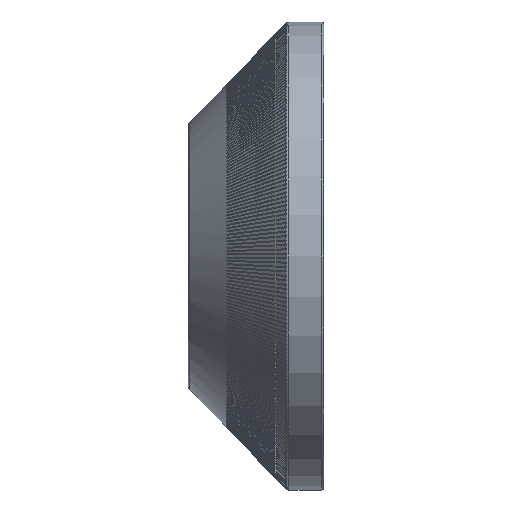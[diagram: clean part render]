
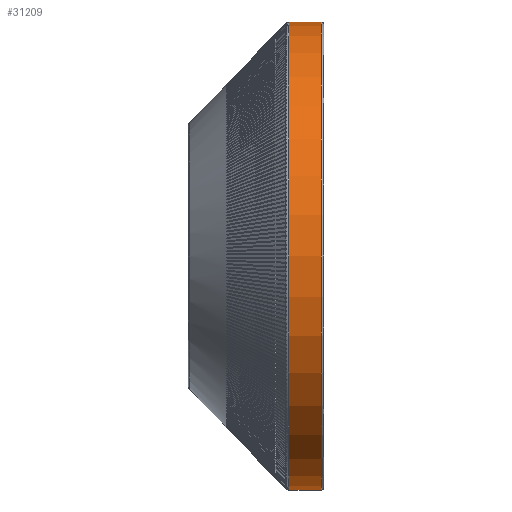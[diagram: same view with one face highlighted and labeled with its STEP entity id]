
A CAD part, left-side view. The second image highlights one B-rep face of the part: STEP entity #31209.
In plain terms, the highlighted cylindrical face has radius 9.5 mm (diameter 19 mm), a full revolution.
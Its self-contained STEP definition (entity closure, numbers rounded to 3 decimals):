
#3806=FACE_OUTER_BOUND('',#5548,.T.);
#5548=EDGE_LOOP('',(#29123,#29124,#29125,#29126));
#5725=CIRCLE('',#31409,9.5);
#7223=CIRCLE('',#33275,9.5);
#10066=LINE('',#129333,#10173);
#10173=VECTOR('',#37491,9.5);
#10697=VERTEX_POINT('',#42884);
#13618=VERTEX_POINT('',#129329);
#14150=EDGE_CURVE('',#10697,#10697,#5725,.T.);
#18787=EDGE_CURVE('',#13618,#13618,#7223,.T.);
#18789=EDGE_CURVE('',#10697,#13618,#10066,.T.);
#29123=ORIENTED_EDGE('',*,*,#14150,.F.);
#29124=ORIENTED_EDGE('',*,*,#18789,.T.);
#29125=ORIENTED_EDGE('',*,*,#18787,.F.);
#29126=ORIENTED_EDGE('',*,*,#18789,.F.);
#29476=CYLINDRICAL_SURFACE('',#33277,9.5);
#31209=ADVANCED_FACE('',(#3806),#29476,.T.);
#31409=AXIS2_PLACEMENT_3D('',#42886,#33654,#33655);
#33275=AXIS2_PLACEMENT_3D('',#129330,#37485,#37486);
#33277=AXIS2_PLACEMENT_3D('',#129332,#37489,#37490);
#33654=DIRECTION('center_axis',(0.,1.,0.));
#33655=DIRECTION('ref_axis',(0.,0.,
-1.));
#37485=DIRECTION('center_axis',(0.,-1.,0.));
#37486=DIRECTION('ref_axis',(0.,0.,
-1.));
#37489=DIRECTION('center_axis',(0.,1.,0.));
#37490=DIRECTION('ref_axis',(0.,0.,1.));
#37491=DIRECTION('',(0.,-1.,0.));
#42884=CARTESIAN_POINT('',(0.,1.415,-9.5));
#42886=CARTESIAN_POINT('Origin',(0.,1.415,0.));
#129329=CARTESIAN_POINT('',(0.,0.1,-9.5));
#129330=CARTESIAN_POINT('Origin',(0.,0.1,0.));
#129332=CARTESIAN_POINT('Origin',(0.,0.75,0.));
#129333=CARTESIAN_POINT('',(0.,0.75,-9.5));
